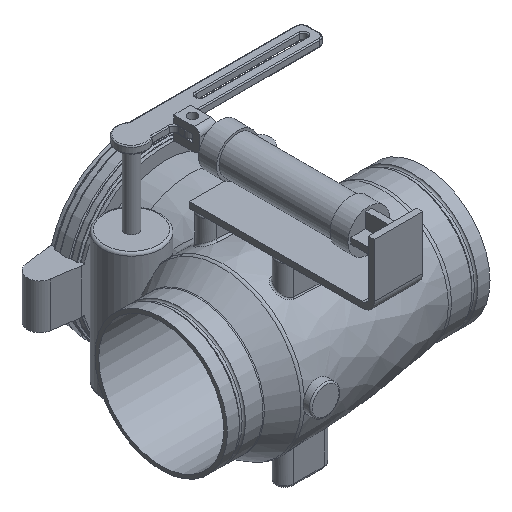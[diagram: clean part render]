
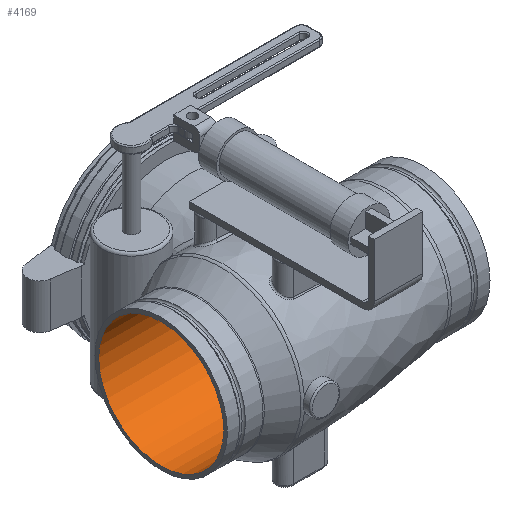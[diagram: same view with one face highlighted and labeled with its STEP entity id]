
A CAD part, isometric view. The second image highlights one B-rep face of the part: STEP entity #4169.
In plain terms, the highlighted cylindrical face has radius 133.096 mm (diameter 266.192 mm), a full revolution.
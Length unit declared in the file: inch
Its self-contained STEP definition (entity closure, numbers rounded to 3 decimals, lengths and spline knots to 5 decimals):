
#496=FACE_OUTER_BOUND('',#743,.T.);
#743=EDGE_LOOP('',(#3366,#3367,#3368,#3369,#3370,#3371));
#1012=LINE('',#8141,#1242);
#1242=VECTOR('',#5565,5.24);
#1436=CIRCLE('',#4568,5.24);
#1437=CIRCLE('',#4569,5.24);
#1438=CIRCLE('',#4570,5.24);
#1439=CIRCLE('',#4571,5.24);
#1826=VERTEX_POINT('',#8137);
#1827=VERTEX_POINT('',#8138);
#1828=VERTEX_POINT('',#8140);
#1829=VERTEX_POINT('',#8142);
#2363=EDGE_CURVE('',#1826,#1827,#1436,.T.);
#2364=EDGE_CURVE('',#1827,#1828,#1012,.T.);
#2365=EDGE_CURVE('',#1829,#1828,#1437,.T.);
#2366=EDGE_CURVE('',#1828,#1829,#1438,.T.);
#2367=EDGE_CURVE('',#1827,#1826,#1439,.T.);
#3366=ORIENTED_EDGE('',*,*,#2363,.T.);
#3367=ORIENTED_EDGE('',*,*,#2364,.T.);
#3368=ORIENTED_EDGE('',*,*,#2365,.F.);
#3369=ORIENTED_EDGE('',*,*,#2366,.F.);
#3370=ORIENTED_EDGE('',*,*,#2364,.F.);
#3371=ORIENTED_EDGE('',*,*,#2367,.T.);
#3750=CYLINDRICAL_SURFACE('',#4567,5.24);
#4169=ADVANCED_FACE('',(#496),#3750,.F.);
#4567=AXIS2_PLACEMENT_3D('',#8136,#5561,#5562);
#4568=AXIS2_PLACEMENT_3D('',#8139,#5563,#5564);
#4569=AXIS2_PLACEMENT_3D('',#8143,#5566,#5567);
#4570=AXIS2_PLACEMENT_3D('',#8144,#5568,#5569);
#4571=AXIS2_PLACEMENT_3D('',#8145,#5570,#5571);
#5561=DIRECTION('center_axis',(-1.,0.,0.));
#5562=DIRECTION('ref_axis',(0.,1.,0.));
#5563=DIRECTION('center_axis',(-1.,0.,0.));
#5564=DIRECTION('ref_axis',(0.,0.,1.));
#5565=DIRECTION('',(1.,0.,0.));
#5566=DIRECTION('center_axis',(-1.,0.,0.));
#5567=DIRECTION('ref_axis',(0.,0.,1.));
#5568=DIRECTION('center_axis',(-1.,0.,0.));
#5569=DIRECTION('ref_axis',(0.,0.,1.));
#5570=DIRECTION('center_axis',(-1.,0.,0.));
#5571=DIRECTION('ref_axis',(0.,0.,1.));
#8136=CARTESIAN_POINT('Origin',(-0.13,0.,0.));
#8137=CARTESIAN_POINT('',(-11.13,5.24,0.));
#8138=CARTESIAN_POINT('',(-11.13,-5.24,0.));
#8139=CARTESIAN_POINT('Origin',(-11.13,0.,0.));
#8140=CARTESIAN_POINT('',(10.87,-5.24,0.));
#8141=CARTESIAN_POINT('',(-0.13,-5.24,0.));
#8142=CARTESIAN_POINT('',(10.87,5.24,0.));
#8143=CARTESIAN_POINT('Origin',(10.87,0.,0.));
#8144=CARTESIAN_POINT('Origin',(10.87,0.,0.));
#8145=CARTESIAN_POINT('Origin',(-11.13,0.,0.));
